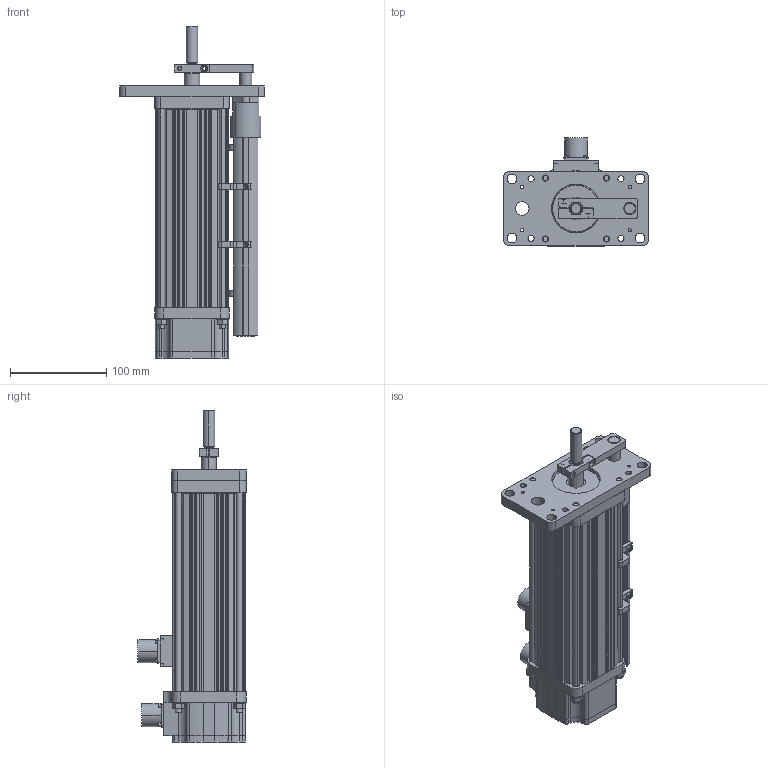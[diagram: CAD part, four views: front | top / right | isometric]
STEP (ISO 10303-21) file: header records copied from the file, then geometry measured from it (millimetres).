
FILE_DESCRIPTION (( 'STEP AP214' ), '1' );
FILE_NAME ('GSM30-0601-MFA-KM5-158-AR-L2.STEP', '2007-09-19T19:21:49', ( ' ' ), ( '' ), 'SwSTEP 2.0', 'SolidWorks 2007', '' );
FILE_SCHEMA (( 'AUTOMOTIVE_DESIGN' ));
Length unit declared in the file: inch
Products named in the file (49): 18896; 23178; 22287; 22486; 23158; 11251; 12781; 24631; 22489; 22484; 11245; 10446; 15355; 10799; 15354; 15047; 10519; 10518; 11242; 26428; 23121; 11247; 10540; 13902; 12367; 11248; 10647; 22292; 27076; 10514; 25616; GSM30-0601-MFA-KM5-158-AR-L2; 25196; 10525; 10516; 16278; 22078; 19745_HX-SHCS 0.138-32x0.3125x0.3125-N; 16450; 27696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
Assembly tree (94 placements, depth 3):
  GSM30-0601-MFA-KM5-158-AR-L2
    18896
    12729  x4
    11242  x4
    15838  x8
    22292
    16450
    15839  x8
    11083
    27696
    23178  x2
    22287
    11248  x4
    12367  x8
    12781  x4
    23158  x4
    11247  x4
    27076
    23121  x2
    25196
    25616
    24631  x2
    10540  x4
    22489
    23017
    10647
    17310
    10518
    16352
    15047
      10799
      15354
    26428
    25610
    13902
    11251
    22078
    22484
    10446
    16278
    10516
    22486
    11245
    15355
    10519
    16449
    10514  x2
    10525
    19745_HX-SHCS 0.138-32x0.3125x0.3125-N
Bounding box: 150.88 x 112.5 x 345.71 mm (x, y, z)
Volume: 1232037.9 mm3; surface area: 506284.2 mm2
Topology: 93 solids, 93 shells, 2150 faces, 5285 edges, 3341 vertices
Faces by surface type: cylinder 869, plane 846, cone 317, torus 54, sphere 40, bspline 24
Entity records: 52035 total; most frequent: CARTESIAN_POINT 10338, DIRECTION 7945, ORIENTED_EDGE 6986, EDGE_CURVE 3493, AXIS2_PLACEMENT_3D 3150, VERTEX_POINT 2244, EDGE_LOOP 1743, VECTOR 1645
